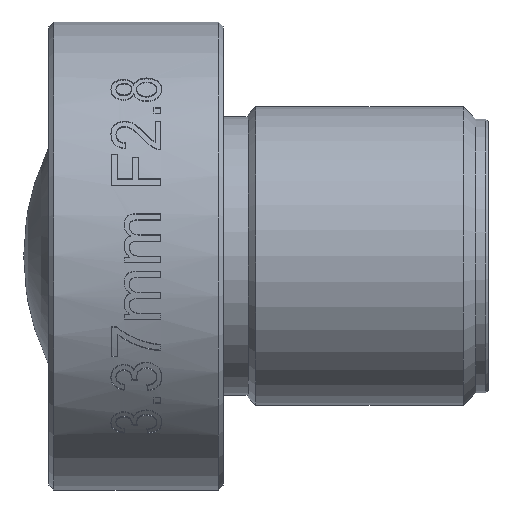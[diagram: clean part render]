
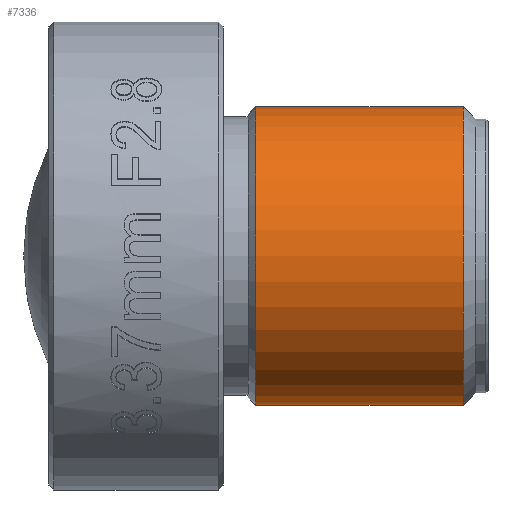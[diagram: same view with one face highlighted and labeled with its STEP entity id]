
A CAD part, top view. The second image highlights one B-rep face of the part: STEP entity #7336.
In plain terms, the highlighted cylindrical face has radius 6 mm (diameter 12 mm), a partial arc.
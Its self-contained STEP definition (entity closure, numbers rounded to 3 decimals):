
#6=DIRECTION('',(1.,0.,0.));
#7=VECTOR('',#6,8.35);
#8=CARTESIAN_POINT('',(-9.25,-6.,0.));
#9=LINE('',#8,#7);
#10=CARTESIAN_POINT('',(-9.25,0.,0.));
#11=DIRECTION('',(-1.,0.,0.));
#12=DIRECTION('',(0.,-1.,0.));
#13=AXIS2_PLACEMENT_3D('',#10,#11,#12);
#15=DIRECTION('',(1.,0.,0.));
#16=VECTOR('',#15,8.35);
#17=CARTESIAN_POINT('',(-9.25,6.,0.));
#18=LINE('',#17,#16);
#6607=CARTESIAN_POINT('',(-0.9,0.,0.));
#6608=DIRECTION('',(-1.,0.,0.));
#6609=DIRECTION('',(0.,-1.,0.));
#6610=AXIS2_PLACEMENT_3D('',#6607,#6608,#6609);
#6695=CARTESIAN_POINT('',(-9.25,-6.,0.));
#6696=CARTESIAN_POINT('',(-0.9,-6.,0.));
#6697=VERTEX_POINT('',#6695);
#6698=VERTEX_POINT('',#6696);
#6737=CARTESIAN_POINT('',(-9.25,6.,0.));
#6738=CARTESIAN_POINT('',(-0.9,6.,0.));
#6739=VERTEX_POINT('',#6737);
#6740=VERTEX_POINT('',#6738);
#7323=CARTESIAN_POINT('',(-19.495,0.,0.));
#7324=DIRECTION('',(1.,0.,0.));
#7325=DIRECTION('',(0.,-1.,0.));
#7326=AXIS2_PLACEMENT_3D('',#7323,#7324,#7325);
#7327=CYLINDRICAL_SURFACE('',#7326,6.);
#7328=ORIENTED_EDGE('',*,*,#7312,.F.);
#7330=ORIENTED_EDGE('',*,*,#7329,.T.);
#7331=ORIENTED_EDGE('',*,*,#7316,.T.);
#7333=ORIENTED_EDGE('',*,*,#7332,.F.);
#7334=EDGE_LOOP('',(#7328,#7330,#7331,#7333));
#7335=FACE_OUTER_BOUND('',#7334,.F.);
#7336=ADVANCED_FACE('',(#7335),#7327,.T.);
#14=CIRCLE('',#13,6.);
#6611=CIRCLE('',#6610,6.);
#7312=EDGE_CURVE('',#6697,#6698,#9,.T.);
#7316=EDGE_CURVE('',#6739,#6740,#18,.T.);
#7329=EDGE_CURVE('',#6697,#6739,#14,.T.);
#7332=EDGE_CURVE('',#6698,#6740,#6611,.T.);
